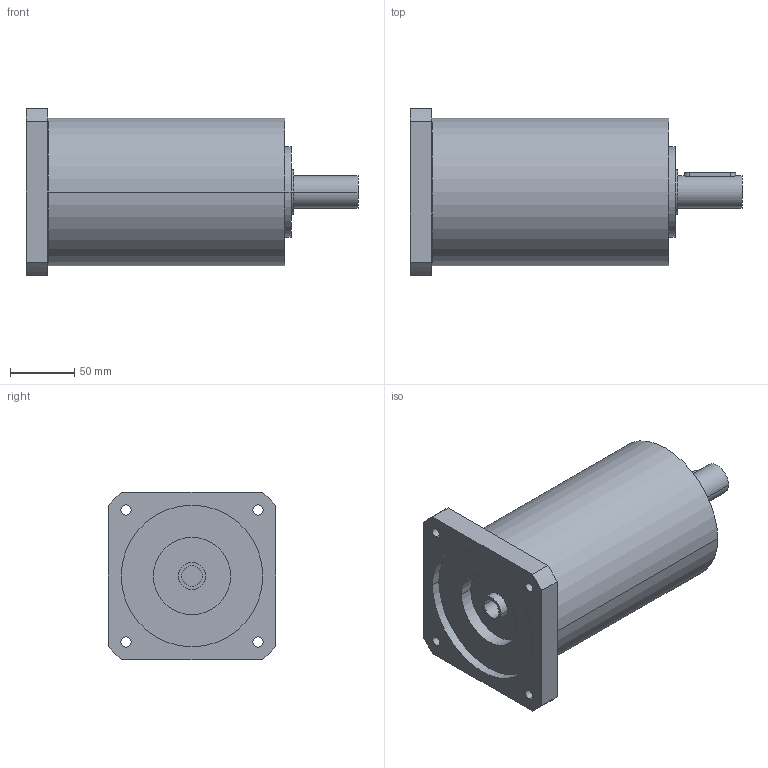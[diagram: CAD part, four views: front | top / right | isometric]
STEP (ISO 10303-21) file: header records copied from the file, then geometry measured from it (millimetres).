
FILE_DESCRIPTION(('CoCreate Modeling STEP Export'),'2;1');
FILE_NAME('GPR125_ig-48-64-80-100-140-196-245-343_25_B14_16_P12.stp','2014-08-26T14:21:30',(''),(''),'CoCreate Modeling STEP processor for AP214 (Solid Model)','CoCreate Modeling 16.00C 25-Feb-2009 (C) Parametric Technology GmbH','');
FILE_SCHEMA(('AUTOMOTIVE_DESIGN { 1 0 10303 214 1 1 1 1 }'));
Length unit declared in the file: millimetre
Products named in the file (2): GPR125_ig-48-64-80-100-140-196-245-343_25_B14_16_P12
Assembly tree (1 placements, depth 2):
  GPR125_ig-48-64-80-100-140-196-245-343_25_B14_16_P12
    GPR125_ig-48-64-80-100-140-196-245-343_25_B14_16_P12
Bounding box: 258 x 130 x 130 mm (x, y, z)
Volume: 2133405 mm3; surface area: 124604.2 mm2
Topology: 1 solids, 1 shells, 65 faces, 180 edges, 128 vertices
Faces by surface type: cylinder 40, plane 21, cone 4
Entity records: 1853 total; most frequent: ORIENTED_EDGE 356, CARTESIAN_POINT 351, DIRECTION 248, EDGE_CURVE 178, VERTEX_POINT 128, AXIS2_PLACEMENT_3D 93, EDGE_LOOP 86, FACE_OUTER_BOUND 65
